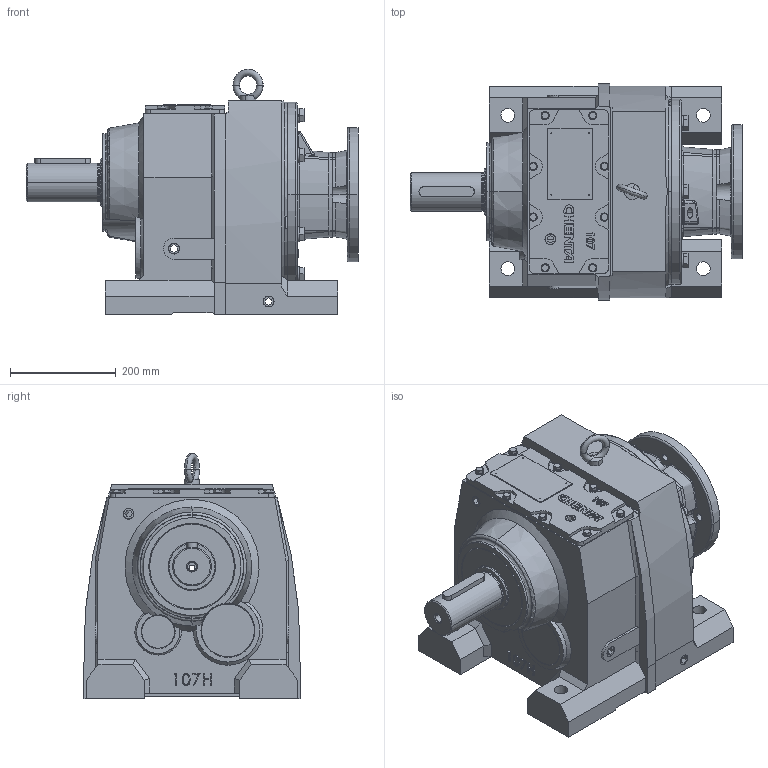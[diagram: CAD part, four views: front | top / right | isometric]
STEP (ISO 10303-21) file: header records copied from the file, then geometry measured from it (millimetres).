
FILE_DESCRIPTION (( 'STEP AP203' ), '1' );
FILE_NAME ('WINL107-254-6TC.STEP', '2013-09-26T10:12:33', ( 'User' ), ( 'Chenta' ), 'SwSTEP 2.0', 'SolidWorks 2011', '' );
FILE_SCHEMA (( 'CONFIG_CONTROL_DESIGN' ));
Length unit declared in the file: millimetre
Products named in the file (1): WINL107-254-6TC
Bounding box: 628 x 409 x 464.35 mm (x, y, z)
Surface area: 1372219.4 mm2 (no closed solid volume)
Topology: 0 solids, 55 shells, 921 faces, 2820 edges, 1947 vertices
Faces by surface type: plane 517, cylinder 183, cone 128, bspline 54, torus 37, sphere 2
Entity records: 38564 total; most frequent: CARTESIAN_POINT 13890, DIRECTION 4895, ORIENTED_EDGE 4888, EDGE_CURVE 2814, VERTEX_POINT 1947, AXIS2_PLACEMENT_3D 1632, VECTOR 1631, LINE 1631
